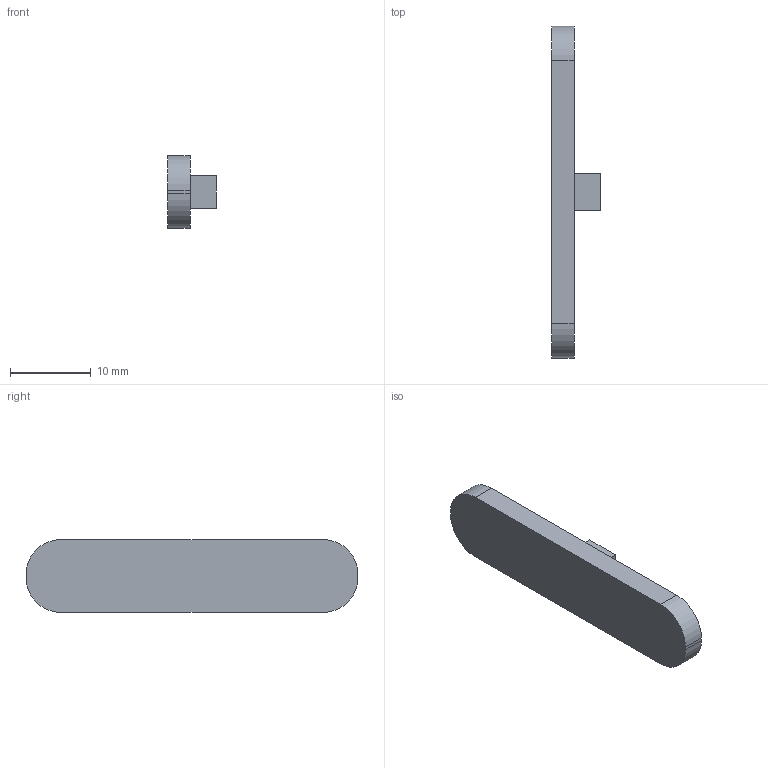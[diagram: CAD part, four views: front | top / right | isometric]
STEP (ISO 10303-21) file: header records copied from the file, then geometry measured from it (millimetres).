
FILE_DESCRIPTION(('Open CASCADE Model'),'2;1');
FILE_NAME('Open CASCADE Shape Model','2026-09-02T15:45:53',('Author'),( 'Open CASCADE'),'Open CASCADE STEP processor 7.7','Open CASCADE 7.7' ,'Unknown');
FILE_SCHEMA(('AUTOMOTIVE_DESIGN { 1 0 10303 214 1 1 1 1 }'));
Length unit declared in the file: millimetre
Products named in the file (1): Open CASCADE STEP translator 7.7 6
Bounding box: 6.05 x 41 x 9 mm (x, y, z)
Volume: 1047.3 mm3; surface area: 1020.8 mm2
Topology: 1 solids, 1 shells, 15 faces, 36 edges, 24 vertices
Faces by surface type: plane 11, cylinder 4
Entity records: 920 total; most frequent: CARTESIAN_POINT 180, DIRECTION 136, LINE 84, VECTOR 84, ORIENTED_EDGE 72, PCURVE 72, DEFINITIONAL_REPRESENTATION 72, EDGE_CURVE 36
